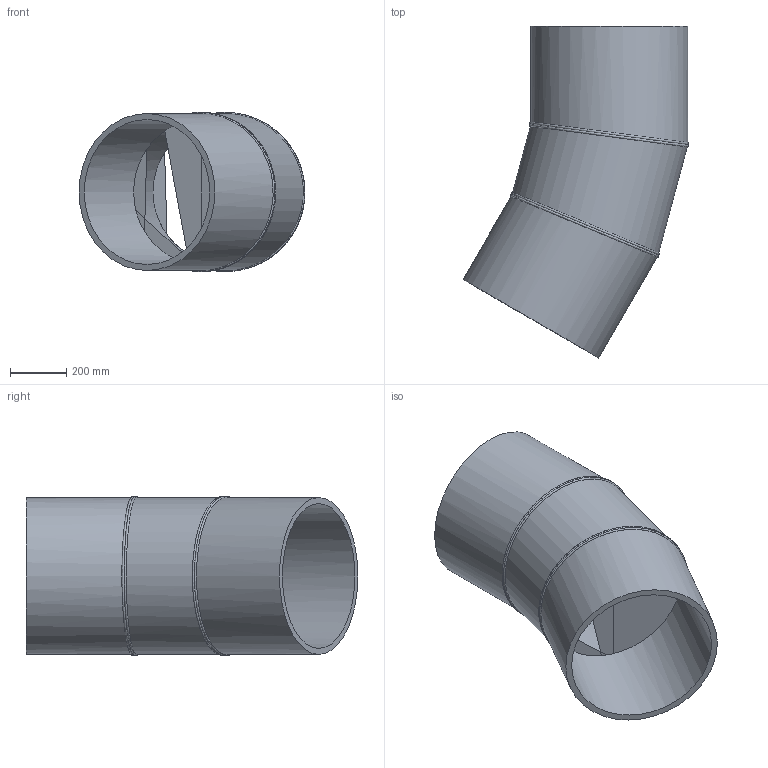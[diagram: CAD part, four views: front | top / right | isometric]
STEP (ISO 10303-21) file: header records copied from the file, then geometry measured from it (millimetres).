
FILE_DESCRIPTION(/* description */ ('Unknown'),/* implementation_level */ '2;1');
FILE_NAME(/* name */ 'Curva 30° a settore DE560 SDR26',/* time_stamp */ '2022-07-26T09:18:36+02:00',/* author */ ('Unknown'),/* organization */ ('Unknown'),/* preprocessor_version */ 'ST-DEVELOPER v18.102',/* originating_system */ 'Solid Edge',/* authorisation */ 'Unknown');
FILE_SCHEMA (('AUTOMOTIVE_DESIGN {1 0 10303 214 3 1 1}'));
Length unit declared in the file: millimetre
Products named in the file (3): Curva 30° a settore DE560 SDR26; Tubo x Gomito 30° DE560 SDR26 - 1; Tubo x Gomito 30° DE560 SDR26 - 2
Assembly tree (3 placements, depth 2):
  Curva 30° a settore DE560 SDR26
    Tubo x Gomito 30° DE560 SDR26 - 1  x2
    Tubo x Gomito 30° DE560 SDR26 - 2
Bounding box: 806.28 x 1184.25 x 567.99 mm (x, y, z)
Volume: 40279756.9 mm3; surface area: 3999341.9 mm2
Topology: 3 solids, 3 shells, 24 faces, 51 edges, 33 vertices
Faces by surface type: cylinder 14, plane 6, bspline 4
Full cylindrical faces by diameter (mm): 517.2 x3, 560 x3
Entity records: 3468 total; most frequent: CARTESIAN_POINT 3073, DIRECTION 70, ORIENTED_EDGE 52, AXIS2_PLACEMENT_3D 35, EDGE_LOOP 28, FACE_BOUND 28, EDGE_CURVE 26, VERTEX_POINT 20
